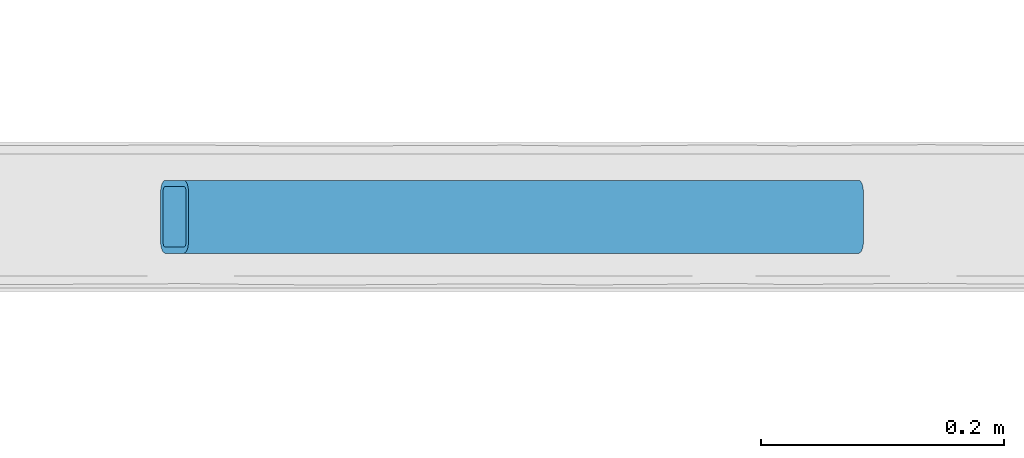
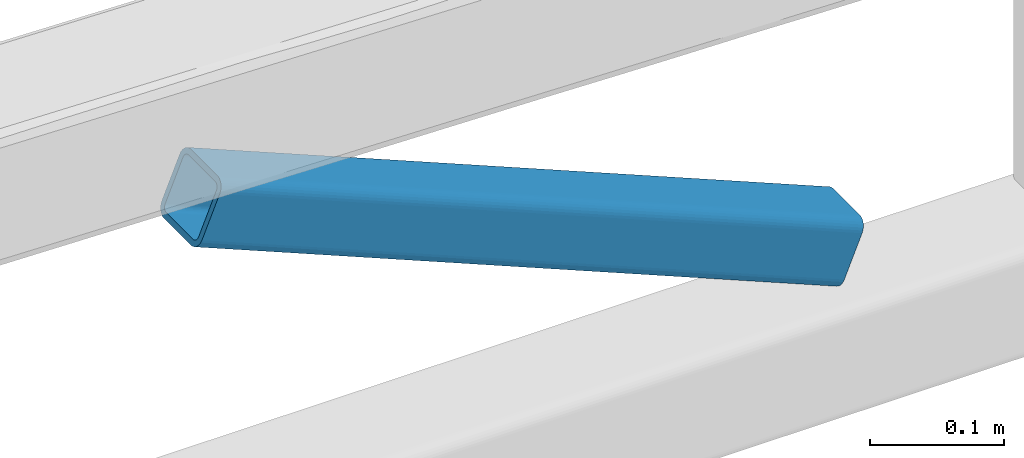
# One storey, part 9 of 12: 1 member, 1 element without a shape of its own.
"""IFC2X3 building model written with IfcOpenShell, lengths in millimetres."""

from ifc_helpers import new_model, entity, si_unit, converted_unit, derived_unit, direction, frame, frame_2d, origin, place, context, subcontext, project, spatial, polyline, circle_curve, parameter, trimmed, segment, composite_curve, outline, extrude, source, transform, mapped, type_object, type_shapes, element, aggregate, save


model = new_model("IFC2X3")

# Units and contexts
model_context = context("Model", 3, precision=0.01, world=origin(), true_north=direction((6.12303176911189e-17, 1.0)))
body_context = subcontext(model_context, "Body", "Model", "MODEL_VIEW")
ifc_project = project(units=[si_unit("LENGTHUNIT", "METRE", prefix="MILLI"), si_unit("AREAUNIT", "SQUARE_METRE"), si_unit("VOLUMEUNIT", "CUBIC_METRE"), converted_unit("PLANEANGLEUNIT", "DEGREE", entity("IfcRatioMeasure", 0.0174532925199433), si_unit("PLANEANGLEUNIT", "RADIAN"), dimensions=[0, 0, 0, 0, 0, 0, 0]), si_unit("MASSUNIT", "GRAM", prefix="KILO"), derived_unit("MASSDENSITYUNIT", [(si_unit("MASSUNIT", "GRAM", prefix="KILO"), 1), (si_unit("LENGTHUNIT", "METRE"), -3)]), si_unit("TIMEUNIT", "SECOND"), si_unit("FREQUENCYUNIT", "HERTZ"), si_unit("THERMODYNAMICTEMPERATUREUNIT", "DEGREE_CELSIUS"), derived_unit("THERMALTRANSMITTANCEUNIT", [(si_unit("MASSUNIT", "GRAM", prefix="KILO"), 1), (si_unit("THERMODYNAMICTEMPERATUREUNIT", "KELVIN"), -1), (si_unit("TIMEUNIT", "SECOND"), -3)]), derived_unit("VOLUMETRICFLOWRATEUNIT", [(si_unit("LENGTHUNIT", "METRE"), 3), (si_unit("TIMEUNIT", "SECOND"), -1)]), si_unit("ELECTRICCURRENTUNIT", "AMPERE"), si_unit("ELECTRICVOLTAGEUNIT", "VOLT"), si_unit("POWERUNIT", "WATT"), si_unit("FORCEUNIT", "NEWTON", prefix="KILO"), si_unit("ILLUMINANCEUNIT", "LUX"), si_unit("LUMINOUSFLUXUNIT", "LUMEN"), si_unit("LUMINOUSINTENSITYUNIT", "CANDELA"), derived_unit("USERDEFINED", [(si_unit("MASSUNIT", "GRAM", prefix="KILO"), -1), (si_unit("LENGTHUNIT", "METRE"), -2), (si_unit("TIMEUNIT", "SECOND"), 3), (si_unit("LUMINOUSFLUXUNIT", "LUMEN"), 1)]), derived_unit("LINEARVELOCITYUNIT", [(si_unit("LENGTHUNIT", "METRE"), 1), (si_unit("TIMEUNIT", "SECOND"), -1)]), si_unit("PRESSUREUNIT", "PASCAL"), derived_unit("USERDEFINED", [(si_unit("LENGTHUNIT", "METRE"), -2), (si_unit("MASSUNIT", "GRAM", prefix="KILO"), 1), (si_unit("TIMEUNIT", "SECOND"), -2)])], contexts=[model_context])

# Site, building, storey
site_placement = place(None, frame((0.0, 0.0, 101000.0)))
site = spatial("IfcSite", under=ifc_project, at=site_placement, Name="Default", CompositionType="ELEMENT")
building_placement = place(site_placement, origin())
building = spatial("IfcBuilding", under=site, at=building_placement, CompositionType="ELEMENT")
storey_placement = place(building_placement, frame((0.0, 0.0, 6025.0)))
storey = spatial("IfcBuildingStorey", under=building, at=storey_placement, Name="03", CompositionType="ELEMENT", Elevation=6024.9999999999)

# Assembly, member
assembly_placement = place(storey_placement, origin())
assembly = element("IfcElementAssembly", 1, at=assembly_placement, inside=storey, Name="Gitterdrager:Standard", ObjectType="Gitterdrager:Standard", AssemblyPlace="NOTDEFINED", PredefinedType="TRUSS")
member_type = type_object("IfcMemberType", Name="60x60x5", PredefinedType="BRACE")
shared_shape = source(origin(), body_context, "Body", "SweptSolid", [
    extrude(outline(composite_curve([segment(trimmed(circle_curve(frame_2d((-20.0, -20.0), x_axis=(1.0, 0.0)), 10.0), [parameter(180.0)], [parameter(270.0)], True, "PARAMETER"), True, "CONTINUOUS"), segment(polyline([(-20.0, -30.0), (20.0, -30.0)]), True, "CONTINUOUS"), segment(trimmed(circle_curve(frame_2d((20.0, -20.0), x_axis=(1.0, 0.0)), 10.0), [parameter(270.0)], [parameter(5.08888749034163e-14)], True, "PARAMETER"), True, "CONTINUOUS"), segment(polyline([(30.0, -20.0), (30.0, 20.0)]), True, "CONTINUOUS"), segment(trimmed(circle_curve(frame_2d((20.0, 20.0), x_axis=(1.0, 0.0)), 10.0), [parameter(360.0)], [parameter(89.9999999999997)], True, "PARAMETER"), True, "CONTINUOUS"), segment(polyline([(20.0, 30.0), (-20.0, 30.0)]), True, "CONTINUOUS"), segment(trimmed(circle_curve(frame_2d((-20.0, 20.0), x_axis=(1.0, 0.0)), 10.0), [parameter(90.0000000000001)], [parameter(180.0)], True, "PARAMETER"), True, "CONTINUOUS"), segment(polyline([(-30.0, 20.0), (-30.0, -20.0)]), True, "CONTINUOUS")], self_intersect=False), holes=[composite_curve([segment(polyline([(20.0, -25.0), (-20.0, -25.0)]), True, "CONTINUOUS"), segment(trimmed(circle_curve(frame_2d((-20.0, -20.0), x_axis=(1.0, 0.0)), 5.0), [parameter(180.0)], [parameter(270.0)], True, "PARAMETER"), False, "CONTINUOUS"), segment(polyline([(-25.0, -20.0), (-25.0, 20.0)]), True, "CONTINUOUS"), segment(trimmed(circle_curve(frame_2d((-20.0, 20.0), x_axis=(1.0, 0.0)), 5.0), [parameter(90.0000000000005)], [parameter(180.0)], True, "PARAMETER"), False, "CONTINUOUS"), segment(polyline([(-20.0, 25.0), (20.0, 25.0)]), True, "CONTINUOUS"), segment(trimmed(circle_curve(frame_2d((20.0, 20.0), x_axis=(1.0, 0.0)), 5.0), [parameter(0.0)], [parameter(90.0000000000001)], True, "PARAMETER"), False, "CONTINUOUS"), segment(polyline([(25.0, 20.0), (25.0, -20.0)]), True, "CONTINUOUS"), segment(trimmed(circle_curve(frame_2d((20.0, -20.0), x_axis=(1.0, 0.0)), 5.0), [parameter(270.0)], [parameter(4.57999874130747e-13)], True, "PARAMETER"), False, "CONTINUOUS")], self_intersect=False)]), frame((-278.55434519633, 0.0, 0.0), z_axis=(1.0, 0.0, 0.0), x_axis=(0.0, -1.0, 0.0)), (0.0, 0.0, 1.0), 600.828967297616),
])
type_shapes(member_type, [shared_shape])
member_placement = place(assembly_placement, frame((19709.5978303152, 38432.1864743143, -134.929816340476), z_axis=(-0.38326728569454, 0.0, -0.923637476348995), x_axis=(0.923637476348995, 0.0, -0.38326728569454)))
member = element("IfcMember", 2, at=member_placement, type_object=member_type, Name="Bjelke HUP:60x60x5", ObjectType="60x60x5", context=body_context, shape_type="MappedRepresentation", body=[
    mapped(shared_shape, transform((0.0, 0.0, 0.0), scale=1.0)),
])
aggregate(assembly, [member])

save(model, "model.ifc")
